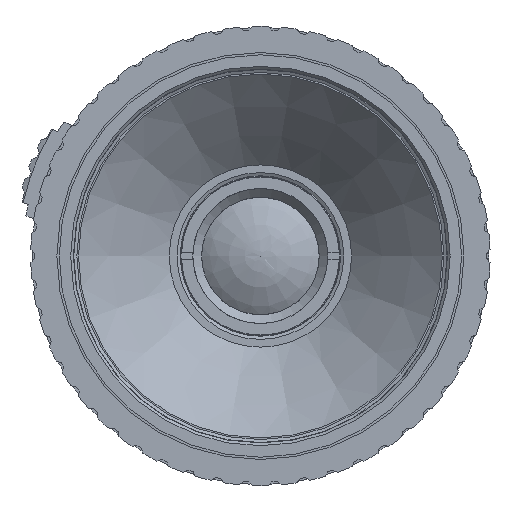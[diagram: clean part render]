
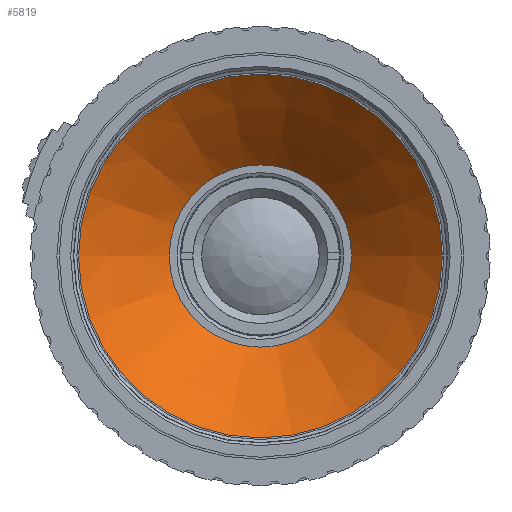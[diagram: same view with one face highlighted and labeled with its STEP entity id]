
A CAD part, left-side view. The second image highlights one B-rep face of the part: STEP entity #5819.
In plain terms, the highlighted conical face has half-angle 45 degrees and reference radius 9.925 mm.
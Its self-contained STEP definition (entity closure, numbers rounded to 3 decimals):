
#5777=CONICAL_SURFACE('',#11932,9.925,45.);
#5819=ADVANCED_FACE('',(#6410,#6411),#5777,.F.);
#6410=FACE_BOUND('',#6528,.T.);
#6411=FACE_BOUND('',#6529,.T.);
#6528=EDGE_LOOP('',(#7097));
#6529=EDGE_LOOP('',(#7098));
#7097=ORIENTED_EDGE('',*,*,#10322,.F.);
#7098=ORIENTED_EDGE('',*,*,#10323,.T.);
#9510=VERTEX_POINT('',#15370);
#9511=VERTEX_POINT('',#15373);
#10322=EDGE_CURVE('',#9510,#9510,#11535,.T.);
#10323=EDGE_CURVE('',#9511,#9511,#11536,.T.);
#11535=CIRCLE('',#11929,19.8);
#11536=CIRCLE('',#11931,9.925);
#11929=AXIS2_PLACEMENT_3D('',#15369,#12849,#12850);
#11931=AXIS2_PLACEMENT_3D('',#15372,#12853,#12854);
#11932=AXIS2_PLACEMENT_3D('',#15374,#12855,#12856);
#12849=DIRECTION('',(1.,0.,0.));
#12850=DIRECTION('',(0.,-0.174,0.985));
#12853=DIRECTION('',(1.,0.,0.));
#12854=DIRECTION('',(0.,-0.174,0.985));
#12855=DIRECTION('',(-1.,0.,0.));
#12856=DIRECTION('',(0.,0.174,-0.985));
#15369=CARTESIAN_POINT('',(-21.267,0.,0.));
#15370=CARTESIAN_POINT('',(-21.267,-3.438,19.499));
#15372=CARTESIAN_POINT('',(-11.392,0.,0.));
#15373=CARTESIAN_POINT('',(-11.392,-1.723,9.774));
#15374=CARTESIAN_POINT('',(-11.392,0.,0.));
